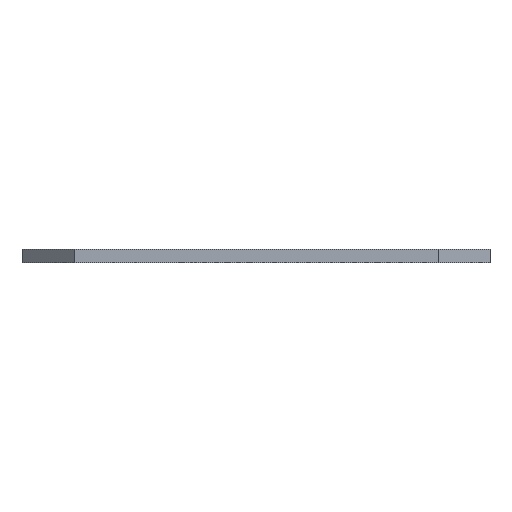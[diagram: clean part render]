
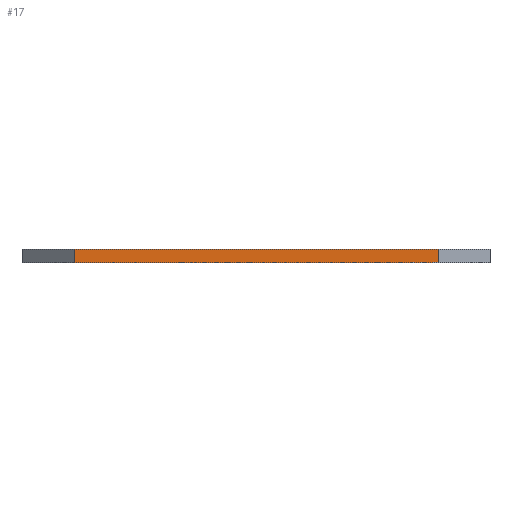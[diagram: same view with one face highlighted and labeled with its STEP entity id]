
A CAD part, front view. The second image highlights one B-rep face of the part: STEP entity #17.
In plain terms, the highlighted planar face has unit normal (0, -1, 0).
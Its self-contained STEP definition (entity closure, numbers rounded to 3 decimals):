
#17 = ADVANCED_FACE('',(#18),#52,.F.);
#18 = FACE_BOUND('',#19,.F.);
#19 = EDGE_LOOP('',(#20,#30,#38,#46));
#20 = ORIENTED_EDGE('',*,*,#21,.T.);
#21 = EDGE_CURVE('',#22,#24,#26,.T.);
#22 = VERTEX_POINT('',#23);
#23 = CARTESIAN_POINT('',(-70.,-130.,103.781));
#24 = VERTEX_POINT('',#25);
#25 = CARTESIAN_POINT('',(-70.,-130.,108.781));
#26 = LINE('',#27,#28);
#27 = CARTESIAN_POINT('',(-70.,-130.,103.781));
#28 = VECTOR('',#29,1.);
#29 = DIRECTION('',(0.,0.,1.));
#30 = ORIENTED_EDGE('',*,*,#31,.T.);
#31 = EDGE_CURVE('',#24,#32,#34,.T.);
#32 = VERTEX_POINT('',#33);
#33 = CARTESIAN_POINT('',(70.,-130.,108.781));
#34 = LINE('',#35,#36);
#35 = CARTESIAN_POINT('',(-70.,-130.,108.781));
#36 = VECTOR('',#37,1.);
#37 = DIRECTION('',(1.,0.,0.));
#38 = ORIENTED_EDGE('',*,*,#39,.F.);
#39 = EDGE_CURVE('',#40,#32,#42,.T.);
#40 = VERTEX_POINT('',#41);
#41 = CARTESIAN_POINT('',(70.,-130.,103.781));
#42 = LINE('',#43,#44);
#43 = CARTESIAN_POINT('',(70.,-130.,103.781));
#44 = VECTOR('',#45,1.);
#45 = DIRECTION('',(0.,0.,1.));
#46 = ORIENTED_EDGE('',*,*,#47,.F.);
#47 = EDGE_CURVE('',#22,#40,#48,.T.);
#48 = LINE('',#49,#50);
#49 = CARTESIAN_POINT('',(-70.,-130.,103.781));
#50 = VECTOR('',#51,1.);
#51 = DIRECTION('',(1.,0.,0.));
#52 = PLANE('',#53);
#53 = AXIS2_PLACEMENT_3D('',#54,#55,#56);
#54 = CARTESIAN_POINT('',(-70.,-130.,103.781));
#55 = DIRECTION('',(0.,1.,0.));
#56 = DIRECTION('',(1.,0.,0.));
